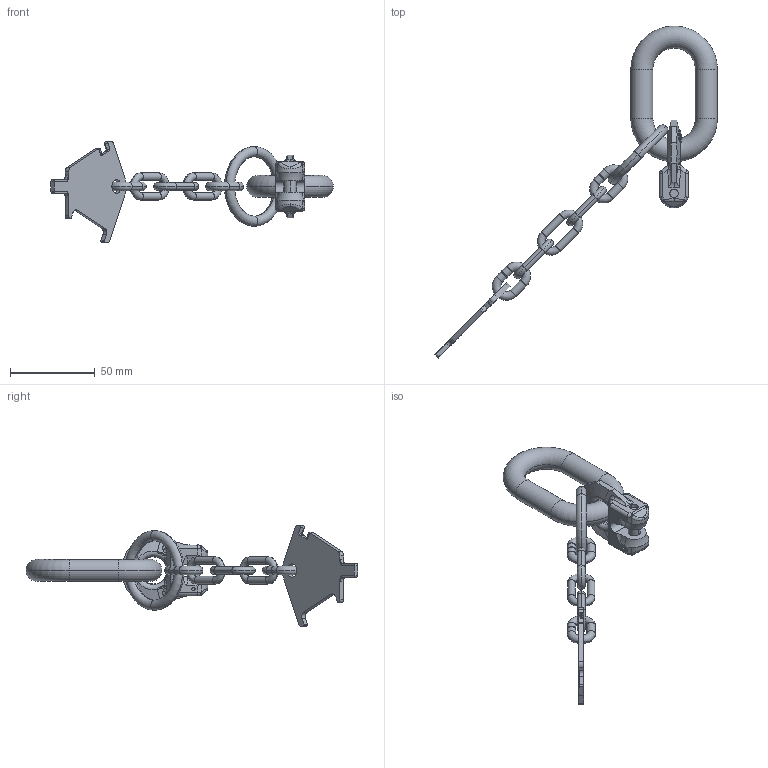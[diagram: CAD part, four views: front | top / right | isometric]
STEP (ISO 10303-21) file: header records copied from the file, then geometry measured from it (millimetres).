
FILE_DESCRIPTION((''),'2;1');
FILE_NAME('001-M34472-P-1_ASM','2014-10-14T',('Andreas.Wendler'),(''),'PRO/ENGINEER BY PARAMETRIC TECHNOLOGY CORPORATION, 2010140','PRO/ENGINEER BY PARAMETRIC TECHNOLOGY CORPORATION, 2010140','');
FILE_SCHEMA(('CONFIG_CONTROL_DESIGN'));
Length unit declared in the file: millimetre
Products named in the file (9): 001-M34472-P-1; 001-M31128-V01; 001-M31556-P-1; 001-M31129-P-1; 001-M33743-001; 001-M31130-003_ASM; 001-M31556-P-1_ASM; 001-M31491-P-3; 001-M34472-P-1_ASM
Assembly tree (11 placements, depth 4):
  001-M34472-P-1_ASM
    001-M34472-P-1
    001-M31128-V01
    001-M31556-P-1_ASM
      001-M31556-P-1
      001-M31129-P-1  x2
      001-M31130-003_ASM
        001-M33743-001  x3
    001-M31491-P-3
Bounding box: 166.57 x 195.57 x 59.53 mm (x, y, z)
Volume: 50231.3 mm3; surface area: 23387.6 mm2
Topology: 9 solids, 9 shells, 479 faces, 1261 edges, 800 vertices
Faces by surface type: plane 281, cylinder 112, torus 32, bspline 30, cone 16, sphere 8
Entity records: 16744 total; most frequent: CARTESIAN_POINT 6261, ORIENTED_EDGE 2414, DIRECTION 1769, EDGE_CURVE 1207, VERTEX_POINT 772, AXIS2_PLACEMENT_3D 648, B_SPLINE_CURVE_WITH_KNOTS 534, VECTOR 473
